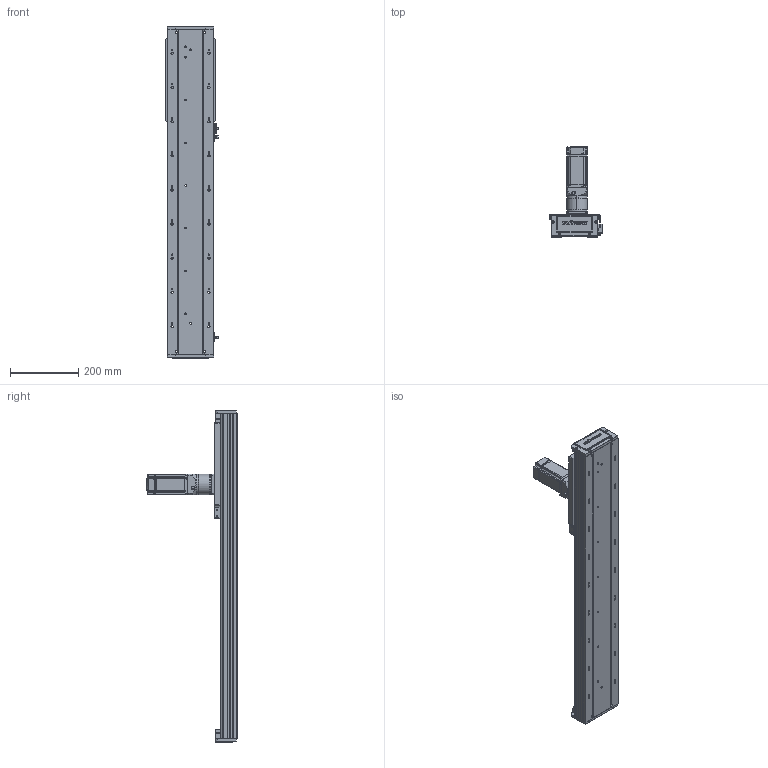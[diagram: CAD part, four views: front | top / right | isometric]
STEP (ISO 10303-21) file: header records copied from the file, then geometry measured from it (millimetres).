
FILE_DESCRIPTION (( 'STEP AP203' ), '1' );
FILE_NAME ('RY140-C-250-UK.SLDASM_600.step', '2022-03-12T01:58:23', ( '' ), ( '' ), 'SwSTEP 2.0', 'SolidWorks 2016', '' );
FILE_SCHEMA (( 'CONFIG_CONTROL_DESIGN' ));
Length unit declared in the file: millimetre
Products named in the file (12): RY140-C-250-UK.SLDASM_600; 140蚥薯蝶輸; RY140-喘謫萇儂覃誹啣; 絳寢賑輸EGH15; RY140-300齿条模组型材底座_600; RY140-喘沭賑輸; RY140-喘沭裔啣; RY120外置感应片(140共用）; 覜茼ん672; 15; 60ZDF珨撰俋倛芞T1 200W M4; RY140-絳寢EGH15-300-MK_600
Assembly tree (21 placements, depth 2):
  RY140-C-250-UK.SLDASM_600
    RY140-300齿条模组型材底座_600
    RY140-絳寢EGH15-300-MK_600  x2
    絳寢賑輸EGH15  x6
    RY140-喘沭裔啣  x2
    覜茼ん672  x3
    RY140-喘沭賑輸
    RY120外置感应片(140共用）
    RY140-喘謫萇儂覃誹啣
    140蚥薯蝶輸  x2
    60ZDF珨撰俋倛芞T1 200W M4
    15
Bounding box: 153.7 x 263.5 x 972 mm (x, y, z)
Volume: 4080490.7 mm3; surface area: 1026872.9 mm2
Topology: 21 solids, 21 shells, 3188 faces, 8404 edges, 5446 vertices
Faces by surface type: plane 1624, cylinder 1306, cone 212, bspline 46
Entity records: 69243 total; most frequent: CARTESIAN_POINT 14692, DIRECTION 11111, ORIENTED_EDGE 10982, EDGE_CURVE 5491, AXIS2_PLACEMENT_3D 3910, VERTEX_POINT 3591, LINE 3291, VECTOR 3291
